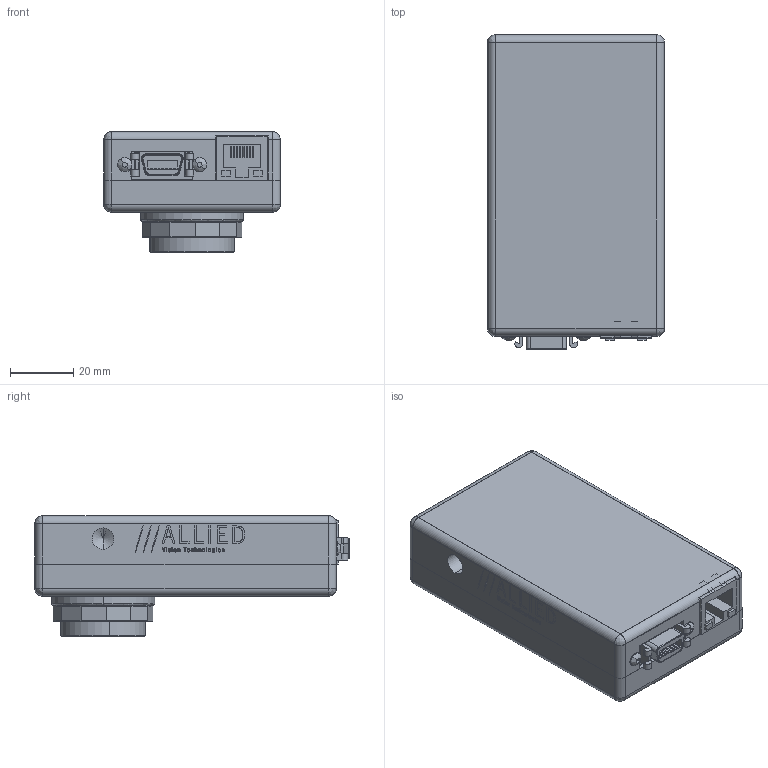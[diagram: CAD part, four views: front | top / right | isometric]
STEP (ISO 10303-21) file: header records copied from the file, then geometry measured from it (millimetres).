
FILE_DESCRIPTION (( 'STEP AP214' ), '1' );
FILE_NAME ('GS1380.STEP', '2013-07-31T20:32:22', ( '' ), ( '' ), 'SwSTEP 2.0', 'SolidWorks 2013', '' );
FILE_SCHEMA (( 'AUTOMOTIVE_DESIGN' ));
Length unit declared in the file: millimetre
Products named in the file (22): 260039-3M 10214-55G3PC; 110031A-B EC-CCD LOCKING RING; 220053-SONY ICX285AL; Sony ICX285 WINDOW; Sony ICX285 BODY; 140027-SCREW BUTTON M3x6 SS; 110003AC-CV CMOUNT RING; 140008-washer spring lock #4; 740095-GS1380 LABEL PRINT; 740084B-GS SERIES LABEL; 110089A-GS FRONT; 140055-WASHER SPRING LOCK M2.5 BLACK; 140056-SCREW SOCKET CAP HEX M2.5X10 BLACK; 110090B-GS BACK RA_Default Logo; 140059-EMI GASKET FOR GS; 140057-SCREW BUTTON SKT CAP M2.5X10 SS; 02-2204B-GB1380; 110094A-GB CCD GASKET; GS1380; 110078A-GB MOUNT; 200081B-GB1380-650-LS-RA; 260036-HALO HFJ11-1G16E-L12RL
Assembly tree (30 placements, depth 4):
  GS1380
    140057-SCREW BUTTON SKT CAP M2.5X10 SS  x2
    140056-SCREW SOCKET CAP HEX M2.5X10 BLACK  x4
    140055-WASHER SPRING LOCK M2.5 BLACK  x4
    110089A-GS FRONT
    740084B-GS SERIES LABEL
    740095-GS1380 LABEL PRINT
    02-2204B-GB1380
      140008-washer spring lock #4  x2
      110003AC-CV CMOUNT RING
      140027-SCREW BUTTON M3x6 SS  x2
      220053-SONY ICX285AL
        Sony ICX285 BODY
        Sony ICX285 WINDOW
      110031A-B EC-CCD LOCKING RING
      200081B-GB1380-650-LS-RA
        260039-3M 10214-55G3PC
        260036-HALO HFJ11-1G16E-L12RL
      110078A-GB MOUNT
      110094A-GB CCD GASKET
    140059-EMI GASKET FOR GS
    110090B-GS BACK RA_Default Logo
Bounding box: 55.88 x 99.31 x 38.14 mm (x, y, z)
Volume: 57916.1 mm3; surface area: 74380.5 mm2
Topology: 86 solids, 86 shells, 3510 faces, 9095 edges, 5926 vertices
Faces by surface type: plane 1982, bspline 863, cylinder 467, cone 198
Entity records: 172709 total; most frequent: CARTESIAN_POINT 55910, ORIENTED_EDGE 17558, DIRECTION 13222, EDGE_CURVE 8779, LINE 6018, VECTOR 6018, VERTEX_POINT 5757, EDGE_LOOP 3720
